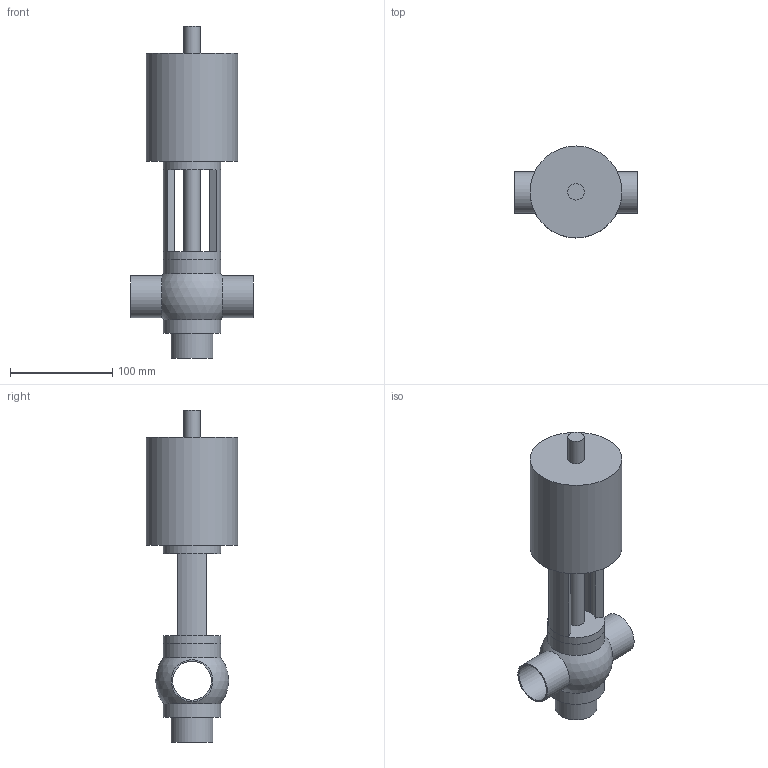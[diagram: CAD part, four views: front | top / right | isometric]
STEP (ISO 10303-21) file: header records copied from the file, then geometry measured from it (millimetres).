
FILE_DESCRIPTION(('FreeCAD Model'),'2;1');
FILE_NAME('/home/martin/Documents/proyect/valves/stp/valve_T_DN-40.step' ,'2018-01-12T21:55:46',('Author'),(''), 'Open CASCADE STEP processor 6.8','FreeCAD','Unknown');
FILE_SCHEMA(('AUTOMOTIVE_DESIGN_CC2 { 1 2 10303 214 -1 1 5 4 }'));
Length unit declared in the file: millimetre
Products named in the file (3): ASSEMBLY; valve_T_DN-40-body; valve_T_DN-40-head
Assembly tree (2 placements, depth 2):
  ASSEMBLY
    valve_T_DN-40-body
    valve_T_DN-40-head
Bounding box: 120 x 90 x 325 mm (x, y, z)
Volume: 870524.6 mm3; surface area: 113055.2 mm2
Topology: 2 solids, 2 shells, 36 faces, 80 edges, 50 vertices
Faces by surface type: cylinder 18, plane 16, sphere 2
Full cylindrical faces by diameter (mm): 16 x2, 38 x3, 41 x3, 56 x4, 90 x1
Entity records: 2414 total; most frequent: CARTESIAN_POINT 556, DIRECTION 350, ORIENTED_EDGE 158, PCURVE 158, DEFINITIONAL_REPRESENTATION 158, LINE 145, VECTOR 145, AXIS2_PLACEMENT_3D 88
